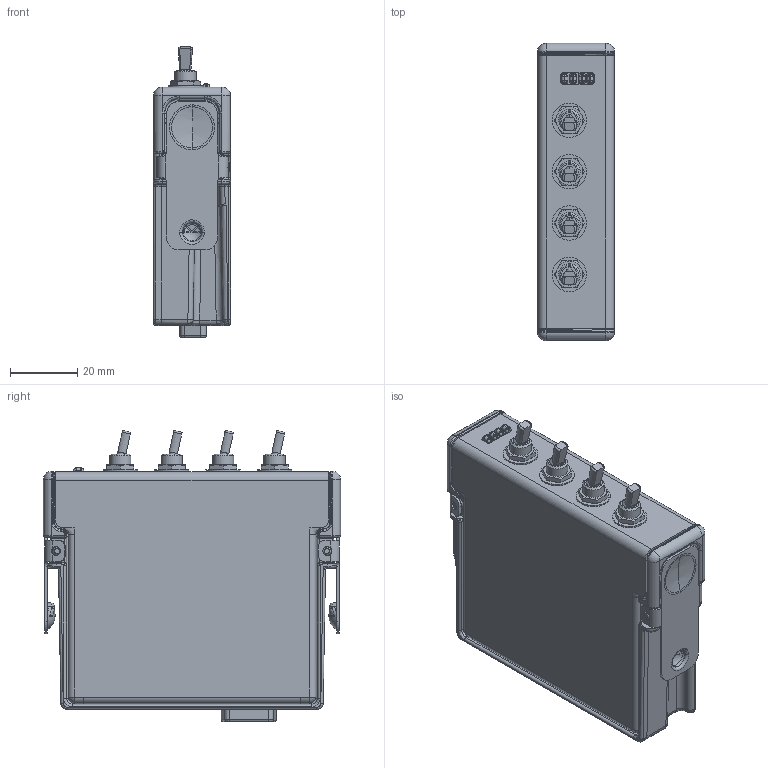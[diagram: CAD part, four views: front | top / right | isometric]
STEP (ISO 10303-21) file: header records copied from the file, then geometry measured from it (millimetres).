
FILE_DESCRIPTION((''),'2;1');
FILE_NAME('CU_NI-9344','2014-12-03T',('dkendric'),(''),'PRO/ENGINEER BY PARAMETRIC TECHNOLOGY CORPORATION, 2014000','PRO/ENGINEER BY PARAMETRIC TECHNOLOGY CORPORATION, 2014000','');
FILE_SCHEMA(('CONFIG_CONTROL_DESIGN'));
Products named in the file (1): CU_NI-9344
Bounding box: 22.86 x 88.11 x 86.28 mm (x, y, z)
Volume: 40176 mm3; surface area: 47819.2 mm2
Topology: 18 solids, 18 shells, 1954 faces, 4729 edges, 2814 vertices
Faces by surface type: plane 718, cylinder 606, bspline 381, cone 120, torus 68, sphere 55, extrusion 6
Entity records: 77991 total; most frequent: CARTESIAN_POINT 35421, ORIENTED_EDGE 9314, DIRECTION 8073, EDGE_CURVE 4657, AXIS2_PLACEMENT_3D 2935, VERTEX_POINT 2852, VECTOR 2203, LINE 2197
